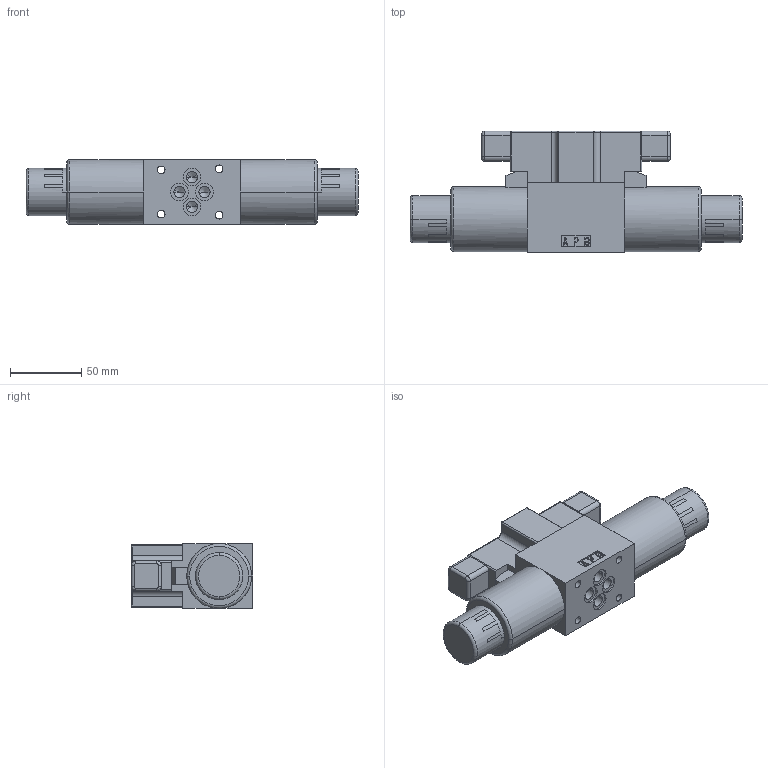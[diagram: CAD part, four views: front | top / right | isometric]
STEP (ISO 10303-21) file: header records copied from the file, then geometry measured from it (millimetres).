
FILE_DESCRIPTION((''),'2;1');
FILE_NAME('AH_RPEW4_063','2014-08-22T',('j.koudelka'),(''),'PRO/ENGINEER BY PARAMETRIC TECHNOLOGY CORPORATION, 2014090','PRO/ENGINEER BY PARAMETRIC TECHNOLOGY CORPORATION, 2014090','');
FILE_SCHEMA(('AUTOMOTIVE_DESIGN { 1 0 10303 214 1 1 1 1 }'));
Length unit declared in the file: millimetre
Products named in the file (1): AH_RPEW4_063
Bounding box: 232.2 x 85 x 45.3 mm (x, y, z)
Volume: 467286.2 mm3; surface area: 58951.9 mm2
Topology: 1 solids, 13 shells, 339 faces, 877 edges, 572 vertices
Faces by surface type: plane 202, cylinder 103, torus 11, bspline 8, cone 8, sphere 7
Entity records: 10456 total; most frequent: CARTESIAN_POINT 1901, DIRECTION 1810, ORIENTED_EDGE 1722, EDGE_CURVE 861, AXIS2_PLACEMENT_3D 616, VECTOR 578, LINE 578, VERTEX_POINT 570
